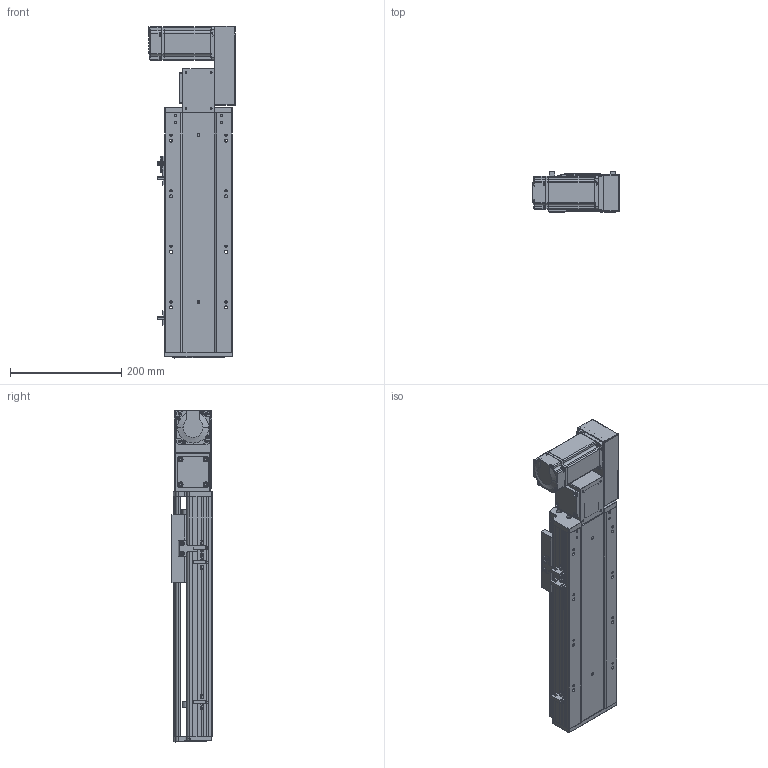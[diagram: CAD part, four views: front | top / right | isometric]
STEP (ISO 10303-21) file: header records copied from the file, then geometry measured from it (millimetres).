
FILE_DESCRIPTION (( 'STEP AP203' ), '1' );
FILE_NAME ('RY120-T-300-RK.SLDASM_200.step', '2021-03-01T03:52:22', ( '盈信电脑' ), ( '东莞市道滘镇水果街19号' ), 'SwSTEP 2.0', 'SolidWorks 2012', '' );
FILE_SCHEMA (( 'CONFIG_CONTROL_DESIGN' ));
Length unit declared in the file: millimetre
Products named in the file (17): RY120-T-300-RK.SLDASM_200; RY120-T主同步轮轴承压盖; RY120-T萇儂欶; RY120-T蹟翐M4; RY120-T萇儂假蚾啣; 15; RY120-T肮祭湍揤踡輸2; RY120-T翋肮祭謫裔啣; 滅袉蝶18-10; RY120-T翋肮祭盓傅釱; RY120-T肮祭湍揤踡輸1; 覜茼ん672; RY120外置感应片(140共用）; RY120-T-300-RK倰第奻裔啣_200; RY120肮祭湍臏賑輸; RY120綴裔啣; RY120-T-300-RK倰第菁釱_200
Assembly tree (22 placements, depth 2):
  RY120-T-300-RK.SLDASM_200
    RY120-T-300-RK倰第菁釱_200
    RY120-T-300-RK倰第奻裔啣_200
    RY120肮祭湍臏賑輸
    RY120綴裔啣
    覜茼ん672  x3
    RY120外置感应片(140共用）
    RY120-T肮祭湍揤踡輸1
    RY120-T肮祭湍揤踡輸2
    RY120-T翋肮祭盓傅釱
    滅袉蝶18-10  x2
    RY120-T翋肮祭謫裔啣
    15
    RY120-T萇儂假蚾啣
    RY120-T蹟翐M4  x4
    RY120-T萇儂欶
    RY120-T主同步轮轴承压盖
Bounding box: 155.5 x 73 x 597.5 mm (x, y, z)
Volume: 1865827.4 mm3; surface area: 656407.5 mm2
Topology: 23 solids, 23 shells, 2582 faces, 7004 edges, 4516 vertices
Faces by surface type: plane 1382, cylinder 920, cone 191, bspline 89
Entity records: 81019 total; most frequent: CARTESIAN_POINT 19918, ORIENTED_EDGE 12536, DIRECTION 11926, EDGE_CURVE 6268, VERTEX_POINT 4103, VECTOR 4056, LINE 4056, AXIS2_PLACEMENT_3D 3935
